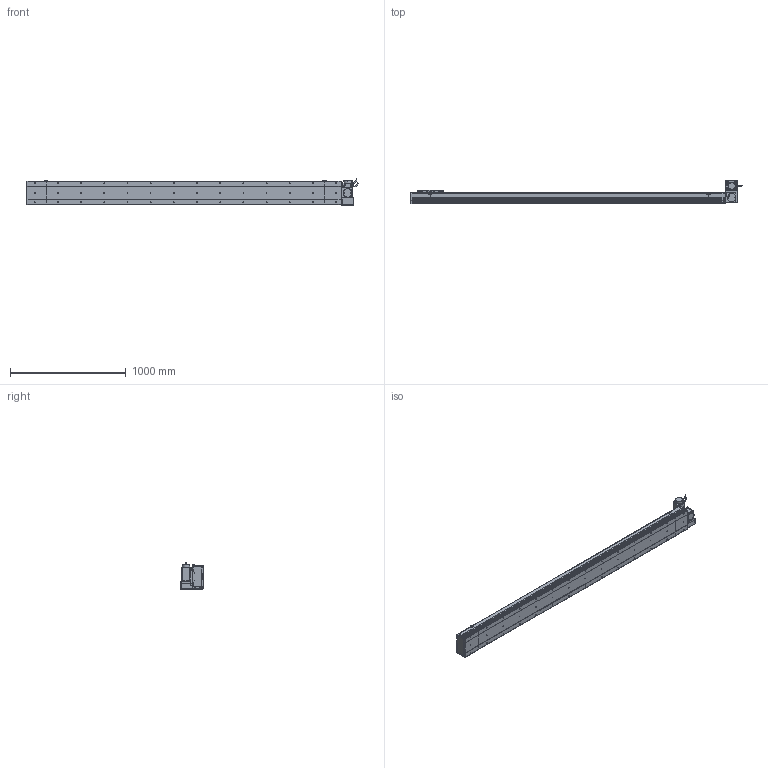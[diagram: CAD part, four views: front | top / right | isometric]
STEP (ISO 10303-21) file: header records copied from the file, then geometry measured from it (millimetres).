
FILE_DESCRIPTION (( 'STEP AP214' ), '1' );
FILE_NAME ('D20 CBH RT S2400.STEP', '2010-06-30T10:11:12', ( 'Conseil Régional Haute-Normandie' ), ( 'Conseil Régional Haute-Normandie' ), 'SwSTEP 2.0', 'SolidWorks 2010', '' );
FILE_SCHEMA (( 'AUTOMOTIVE_DESIGN' ));
Length unit declared in the file: millimetre
Products named in the file (31): Corp Tail D20 RT_Default; D20 CBH RT S2400; Chariot D20_Default; Support Chariot D20_Default; Head RT_Default; Couvercle RT_Default; Couvercle S2400_Default; Corp S2400_Default; Plaque De Serrage D20 RT_Default; Plaque de Bout Head D20 RT_Default; Glissiere_Default; Support moteur RT_Default; Corp D20 S2400_Default; Rondelle Cache D20 RT_Default; vis M5 L47_Default; Moteur motionking 90BLDC125A-640; codeur 90BLDC125-640; corps 90BLDC125A-640; avant 90BLDC125A-640; vis M5 L30_Default; Conecteur_Default; ecrou_Default; Conecteur2_Default; Cache Support Moteur RT_Default; Plaque de Bout Tail D20_Default; Couvercle_Default; Corp Tail D20_Default; vis M5 L15_Default; Plaque De Serrage D20_Default; Tail D20_Default
Assembly tree (68 placements, depth 4):
  D20 CBH RT S2400
    Tail D20_Default
      Plaque De Serrage D20_Default
      vis M5 L15_Default  x6
      Plaque de Bout Tail D20_Default
      Couvercle_Default
      Corp Tail D20_Default
    Corp D20 S2400_Default
      Couvercle S2400_Default
      Corp S2400_Default
    Chariot D20_Default
      vis M5 L15_Default  x8
      Glissiere_Default
      Support Chariot D20_Default
      Chariot D20_Default
    Head RT_Default
      vis M5 L30_Default  x4
      vis M5 L15_Default  x14
      Rondelle Cache D20 RT_Default  x3
      ecrou_Default  x4
      vis M5 L47_Default  x4
      Moteur motionking 90BLDC125A-640
        Conecteur_Default
        Conecteur2_Default
        avant 90BLDC125A-640
        corps 90BLDC125A-640
        codeur 90BLDC125-640
      Corp Tail D20 RT_Default
      Support moteur RT_Default
      Couvercle RT_Default
      Plaque de Bout Head D20 RT_Default
      Cache Support Moteur RT_Default
      Plaque De Serrage D20 RT_Default
Bounding box: 2864.45 x 206.5 x 229.7 mm (x, y, z)
Volume: 19451639.6 mm3; surface area: 3773047.2 mm2
Topology: 105 solids, 105 shells, 3835 faces, 9534 edges, 6190 vertices
Faces by surface type: plane 2134, bspline 806, cylinder 724, torus 95, cone 72, sphere 4
Entity records: 159902 total; most frequent: CARTESIAN_POINT 82391, ORIENTED_EDGE 15336, DIRECTION 11710, EDGE_CURVE 7668, VERTEX_POINT 5074, LINE 4948, VECTOR 4948, AXIS2_PLACEMENT_3D 3381
